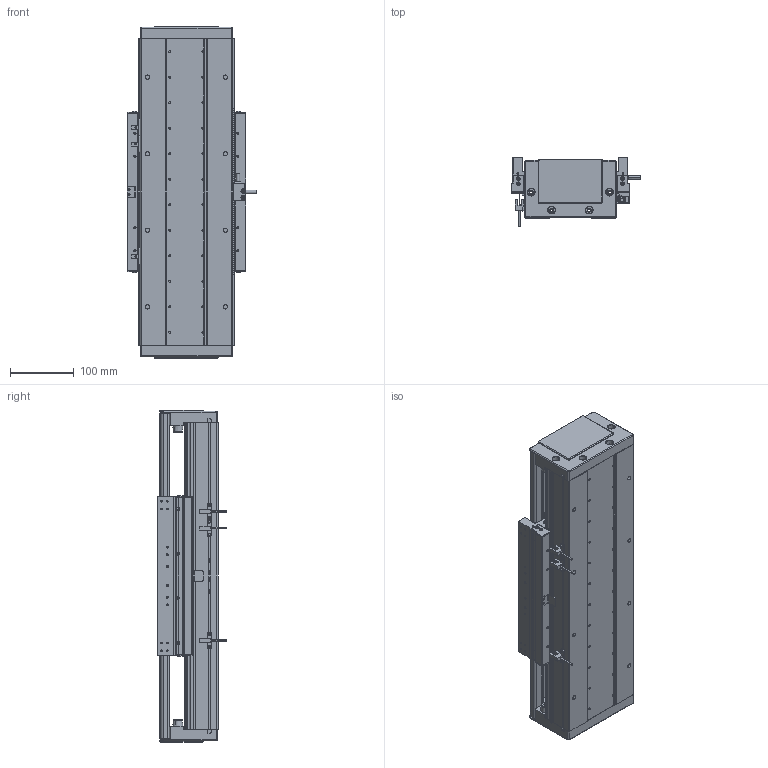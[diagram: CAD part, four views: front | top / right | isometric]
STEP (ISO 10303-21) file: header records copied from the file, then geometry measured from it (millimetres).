
FILE_DESCRIPTION (( 'STEP AP203' ), '1' );
FILE_NAME ('DA-C145-C3-T180-C010-0.2 眻盄萇儂.STEP', '2025-08-14T01:14:45', ( '' ), ( '' ), 'SwSTEP 2.0', 'SolidWorks 2019', '' );
FILE_SCHEMA (( 'CONFIG_CONTROL_DESIGN' ));
Length unit declared in the file: millimetre
Products named in the file (29): 葩璃 DA145-C3-DP-A-00 菜えA^CU145-W 幗紩賑怢; 复件 DA145-C3-DK-00 挡块^CU145-W 滚珠滑台; 葩璃 鞠褒情蹟譫 M3^DA-C145-C3-T-C010-0.2; 复件 DA95-DB-00  挡板^CU145-W 滚珠滑台; CU145-W 幗紩賑怢; 复件 DA95-HK-GT-00 滑块钢轨^CU145-W-00 一体化滑动台板; 葩璃 DA95-GT-T-00^IU-CU145-L 菁釱絳寢; 葩璃 DA145-T-003-00 裔啣^DA-C145-C3-T-C010-0.2; 复件 DA145-C3-YB-B-00 压板B^CU145-W 滚珠滑台; 复件 纯铜油杯 6x6mm^CU145-W 滚珠滑台; 葩璃 DMA-010-0.2 黍杅芛^DA-C145-C3-T-C010-0.2; 葩璃 DA95-HXJ-00 遣喳砎蝶^DA-C145-C3-T-C010-0.2; 葩璃 CKM03-W060-C1C2-TP-0.2^DA-C145-C3-T-C010-0.2; 66245-CU145-HT-W-00 賑雄怢啣(3D芞祧)(00); 葩璃 PM-T45^DA-C145-C3-T-C010-0.2; CU145-W-00 珨极趙賑雄怢啣; TAY01-M8; 复件 DA145-C3-YB-A-00 压板A^CU145-W 滚珠滑台; 复件 半圆头内六角螺钉 M3×6^CU145-W 滚珠滑台; 复件 DA145-GYP-00 光电感应片^DA-C145-C3-T-C010-0.2; 葩璃 DA145-DG-H-N-00 傷裔^DA-C145-C3-T-C010-0.2; DA-C145-C3-T180-C010-0.2 眻盄萇儂; 葩璃 CKMA01-W060-TRL^DA-C145-C3-T-C010-0.2; IU-CU145-L 菁釱絳寢; 复件 内六角平端紧定螺钉 GB.T77-2000 M5×10^CU145-W 滚珠滑台; IU-CU145-L-00 菁釱(L480); 葩璃 DA145-C3-DP-B-00 菜えB^CU145-W 幗紩賑怢; 葩璃 XD-U-02L 棠掑喜^DA-C145-C3-T-C010-0.2; 复件 DA95-MFP-01 密封片^CU145-W 滚珠滑台
Assembly tree (98 placements, depth 4):
  DA-C145-C3-T180-C010-0.2 眻盄萇儂
    IU-CU145-L 菁釱絳寢
      IU-CU145-L-00 菁釱(L480)
      葩璃 DA95-GT-T-00^IU-CU145-L 菁釱絳寢  x4
    CU145-W 幗紩賑怢
      CU145-W-00 珨极趙賑雄怢啣
        66245-CU145-HT-W-00 賑雄怢啣(3D芞祧)(00)
        复件 DA95-HK-GT-00 滑块钢轨^CU145-W-00 一体化滑动台板  x8
      复件 DA95-MFP-01 密封片^CU145-W 滚珠滑台  x8
      复件 DA95-DB-00  挡板^CU145-W 滚珠滑台  x8
      复件 内六角平端紧定螺钉 GB.T77-2000 M5×10^CU145-W 滚珠滑台  x4
      复件 纯铜油杯 6x6mm^CU145-W 滚珠滑台  x4
      复件 半圆头内六角螺钉 M3×6^CU145-W 滚珠滑台  x16
      复件 DA145-C3-DK-00 挡块^CU145-W 滚珠滑台  x4
      葩璃 DA145-C3-DP-B-00 菜えB^CU145-W 幗紩賑怢  x2
      复件 DA145-C3-YB-B-00 压板B^CU145-W 滚珠滑台  x2
      葩璃 DA145-C3-DP-A-00 菜えA^CU145-W 幗紩賑怢  x3
      复件 DA145-C3-YB-A-00 压板A^CU145-W 滚珠滑台  x3
      TAY01-M8  x4
    葩璃 CKMA01-W060-TRL^DA-C145-C3-T-C010-0.2
    葩璃 PM-T45^DA-C145-C3-T-C010-0.2  x3
    葩璃 XD-U-02L 棠掑喜^DA-C145-C3-T-C010-0.2
    葩璃 DA145-DG-H-N-00 傷裔^DA-C145-C3-T-C010-0.2  x2
    葩璃 DA145-T-003-00 裔啣^DA-C145-C3-T-C010-0.2
    葩璃 DA95-HXJ-00 遣喳砎蝶^DA-C145-C3-T-C010-0.2  x4
    复件 DA145-GYP-00 光电感应片^DA-C145-C3-T-C010-0.2
    葩璃 DMA-010-0.2 黍杅芛^DA-C145-C3-T-C010-0.2
    葩璃 CKM03-W060-C1C2-TP-0.2^DA-C145-C3-T-C010-0.2
    葩璃 鞠褒情蹟譫 M3^DA-C145-C3-T-C010-0.2  x8
Bounding box: 203.5 x 108.45 x 520 mm (x, y, z)
Volume: 4575770.4 mm3; surface area: 1214402.6 mm2
Topology: 95 solids, 127 shells, 3738 faces, 9609 edges, 5884 vertices
Faces by surface type: plane 1565, cylinder 1457, cone 626, torus 86, sphere 4
Entity records: 77627 total; most frequent: CARTESIAN_POINT 17196, DIRECTION 11927, ORIENTED_EDGE 11216, EDGE_CURVE 5608, AXIS2_PLACEMENT_3D 4420, VERTEX_POINT 3573, LINE 3087, VECTOR 3087
